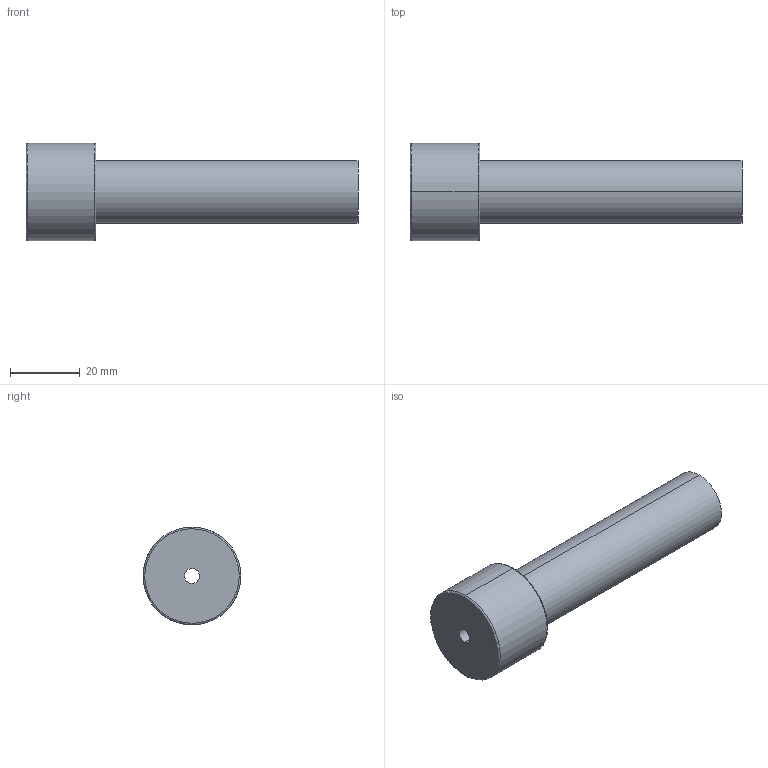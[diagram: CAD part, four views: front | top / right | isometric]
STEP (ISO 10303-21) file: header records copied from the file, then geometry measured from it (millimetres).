
FILE_DESCRIPTION(('CATIA V5 STEP Exchange'),'2;1');
FILE_NAME('C:\Users\Utente\Desktop\IO LAVORO\3D X SITO CF\X SITO\PLASTICA\3D files 367\367F-18X95.stp','2021-03-24T16:02:11+00:00',('none'),('none'),'CATIA Version 5 Release 20 GA (IN-10)','CATIA V5 STEP AP203','none');
FILE_SCHEMA(('CONFIG_CONTROL_DESIGN'));
Length unit declared in the file: millimetre
Products named in the file (1): 367F-18X95
Bounding box: 95 x 28 x 28 mm (x, y, z)
Volume: 27799.4 mm3; surface area: 9138.4 mm2
Topology: 1 solids, 1 shells, 13 faces, 42 edges, 32 vertices
Faces by surface type: torus 4, cylinder 4, plane 3, cone 2
Entity records: 614 total; most frequent: CARTESIAN_POINT 200, ORIENTED_EDGE 84, DIRECTION 60, AXIS2_PLACEMENT_3D 42, EDGE_CURVE 42, VERTEX_POINT 32, CIRCLE 28, EDGE_LOOP 16
